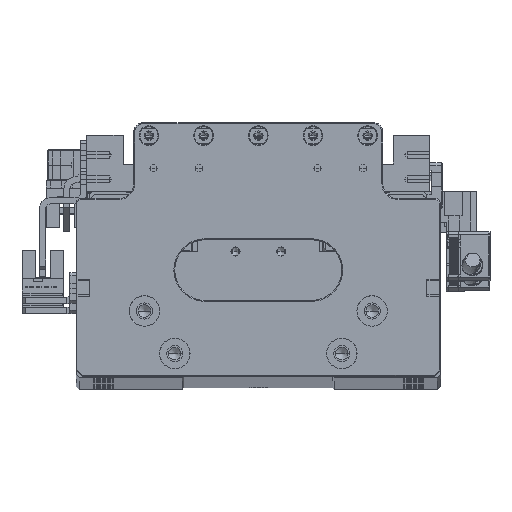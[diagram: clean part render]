
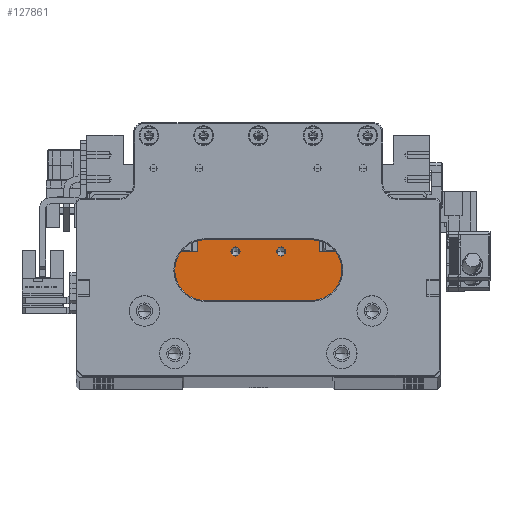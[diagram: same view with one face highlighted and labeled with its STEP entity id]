
A CAD part, top view. The second image highlights one B-rep face of the part: STEP entity #127861.
In plain terms, the highlighted planar face has unit normal (0, 0, 1).
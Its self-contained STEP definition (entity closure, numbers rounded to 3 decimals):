
#3406 = CARTESIAN_POINT ( 'NONE',  ( 29.9, 18.2, 83.854 ) ) ;
#3426 = FACE_BOUND ( 'NONE', #112526, .T. ) ;
#3433 = VECTOR ( 'NONE', #106954, 1000. ) ;
#3450 = AXIS2_PLACEMENT_3D ( 'NONE', #23596, #34449, #106820 ) ;
#3827 = ORIENTED_EDGE ( 'NONE', *, *, #56563, .F. ) ;
#4630 = DIRECTION ( 'NONE',  ( 0., 0., 1. ) ) ;
#6079 = VERTEX_POINT ( 'NONE', #40209 ) ;
#7042 = CARTESIAN_POINT ( 'NONE',  ( -7.5, 25.8, 83.854 ) ) ;
#7961 = AXIS2_PLACEMENT_3D ( 'NONE', #66505, #4630, #76891 ) ;
#9454 = EDGE_CURVE ( 'NONE', #82690, #84410, #69740, .T. ) ;
#9627 = CIRCLE ( 'NONE', #46484, 1.525 ) ;
#11669 = EDGE_CURVE ( 'NONE', #31126, #114815, #126567, .T. ) ;
#13521 = CARTESIAN_POINT ( 'NONE',  ( 29.9, 25.7, 83.854 ) ) ;
#13972 = LINE ( 'NONE', #22997, #38293 ) ;
#14658 = ORIENTED_EDGE ( 'NONE', *, *, #35816, .F. ) ;
#14771 = VECTOR ( 'NONE', #28015, 1000. ) ;
#15309 = CARTESIAN_POINT ( 'NONE',  ( 7.5, 25.8, 83.854 ) ) ;
#16736 = EDGE_CURVE ( 'NONE', #49024, #106659, #119303, .T. ) ;
#17464 = DIRECTION ( 'NONE',  ( 1., 0., 0. ) ) ;
#17992 = EDGE_CURVE ( 'NONE', #43784, #49024, #60788, .T. ) ;
#22997 = CARTESIAN_POINT ( 'NONE',  ( 20., 18.2, 83.854 ) ) ;
#23596 = CARTESIAN_POINT ( 'NONE',  ( -7.5, 18.2, 83.854 ) ) ;
#24638 = ORIENTED_EDGE ( 'NONE', *, *, #55368, .F. ) ;
#25714 = DIRECTION ( 'NONE',  ( 1., 0., 0. ) ) ;
#28015 = DIRECTION ( 'NONE',  ( 0., 1., 0. ) ) ;
#31126 = VERTEX_POINT ( 'NONE', #119779 ) ;
#33338 = AXIS2_PLACEMENT_3D ( 'NONE', #108734, #46834, #119119 ) ;
#34449 = DIRECTION ( 'NONE',  ( 0., 0., -1. ) ) ;
#34590 = CARTESIAN_POINT ( 'NONE',  ( -20., 18.2, 83.854 ) ) ;
#34675 = LINE ( 'NONE', #79738, #113964 ) ;
#35153 = ORIENTED_EDGE ( 'NONE', *, *, #74474, .T. ) ;
#35816 = EDGE_CURVE ( 'NONE', #114815, #43784, #13972, .T. ) ;
#38293 = VECTOR ( 'NONE', #126048, 1000. ) ;
#38687 = CARTESIAN_POINT ( 'NONE',  ( 9.025, 25.8, 83.854 ) ) ;
#39092 = DIRECTION ( 'NONE',  ( 1., 0., 0. ) ) ;
#40209 = CARTESIAN_POINT ( 'NONE',  ( -9.025, 25.8, 83.854 ) ) ;
#41748 = ORIENTED_EDGE ( 'NONE', *, *, #17992, .F. ) ;
#43195 = ORIENTED_EDGE ( 'NONE', *, *, #75675, .F. ) ;
#43308 = CARTESIAN_POINT ( 'NONE',  ( 20., 29.7, 83.854 ) ) ;
#43784 = VERTEX_POINT ( 'NONE', #53129 ) ;
#44573 = DIRECTION ( 'NONE',  ( 0., -1., 0. ) ) ;
#46233 = ORIENTED_EDGE ( 'NONE', *, *, #96845, .F. ) ;
#46484 = AXIS2_PLACEMENT_3D ( 'NONE', #15309, #87592, #25714 ) ;
#46834 = DIRECTION ( 'NONE',  ( 0., 0., 1. ) ) ;
#48219 = CARTESIAN_POINT ( 'NONE',  ( -20., 25.7, 83.854 ) ) ;
#49024 = VERTEX_POINT ( 'NONE', #13521 ) ;
#49379 = EDGE_CURVE ( 'NONE', #6079, #69639, #122192, .T. ) ;
#52276 = VERTEX_POINT ( 'NONE', #38687 ) ;
#53129 = CARTESIAN_POINT ( 'NONE',  ( 20., 25.7, 83.854 ) ) ;
#54538 = DIRECTION ( 'NONE',  ( 1., 0., 0. ) ) ;
#55171 = FACE_BOUND ( 'NONE', #109655, .T. ) ;
#55368 = EDGE_CURVE ( 'NONE', #69639, #6079, #82618, .T. ) ;
#55463 = LINE ( 'NONE', #80106, #103960 ) ;
#56563 = EDGE_CURVE ( 'NONE', #123616, #52276, #9627, .T. ) ;
#57548 = VECTOR ( 'NONE', #88023, 1000. ) ;
#58890 = ORIENTED_EDGE ( 'NONE', *, *, #11669, .F. ) ;
#60788 = LINE ( 'NONE', #129199, #57548 ) ;
#66505 = CARTESIAN_POINT ( 'NONE',  ( 7.5, 25.8, 83.854 ) ) ;
#67487 = VECTOR ( 'NONE', #44573, 1000. ) ;
#68367 = VECTOR ( 'NONE', #54538, 1000. ) ;
#69422 = AXIS2_PLACEMENT_3D ( 'NONE', #7042, #79310, #17464 ) ;
#69639 = VERTEX_POINT ( 'NONE', #129416 ) ;
#69740 = LINE ( 'NONE', #120703, #14771 ) ;
#74474 = EDGE_CURVE ( 'NONE', #82690, #106659, #34675, .T. ) ;
#75675 = EDGE_CURVE ( 'NONE', #84410, #127472, #55463, .T. ) ;
#76891 = DIRECTION ( 'NONE',  ( 1., 0., 0. ) ) ;
#79310 = DIRECTION ( 'NONE',  ( 0., 0., 1. ) ) ;
#79738 = CARTESIAN_POINT ( 'NONE',  ( -7.5, 6.5, 83.854 ) ) ;
#80106 = CARTESIAN_POINT ( 'NONE',  ( -7.5, 25.7, 83.854 ) ) ;
#82582 = FACE_OUTER_BOUND ( 'NONE', #122255, .T. ) ;
#82618 = CIRCLE ( 'NONE', #33338, 1.525 ) ;
#82690 = VERTEX_POINT ( 'NONE', #118086 ) ;
#83588 = CARTESIAN_POINT ( 'NONE',  ( 29.9, 6.5, 83.854 ) ) ;
#83593 = ORIENTED_EDGE ( 'NONE', *, *, #16736, .F. ) ;
#84410 = VERTEX_POINT ( 'NONE', #117043 ) ;
#87592 = DIRECTION ( 'NONE',  ( 0., 0., 1. ) ) ;
#88023 = DIRECTION ( 'NONE',  ( 1., 0., 0. ) ) ;
#90155 = DIRECTION ( 'NONE',  ( 1., 0., 0. ) ) ;
#90487 = CARTESIAN_POINT ( 'NONE',  ( 5.975, 25.8, 83.854 ) ) ;
#96341 = PLANE ( 'NONE',  #3450 ) ;
#96845 = EDGE_CURVE ( 'NONE', #52276, #123616, #124635, .T. ) ;
#103960 = VECTOR ( 'NONE', #39092, 1000. ) ;
#106101 = CARTESIAN_POINT ( 'NONE',  ( -7.5, 29.7, 83.854 ) ) ;
#106659 = VERTEX_POINT ( 'NONE', #83588 ) ;
#106820 = DIRECTION ( 'NONE',  ( -1., 0., 0. ) ) ;
#106954 = DIRECTION ( 'NONE',  ( 0., 1., 0. ) ) ;
#106960 = LINE ( 'NONE', #34590, #3433 ) ;
#107537 = ORIENTED_EDGE ( 'NONE', *, *, #134118, .F. ) ;
#108734 = CARTESIAN_POINT ( 'NONE',  ( -7.5, 25.8, 83.854 ) ) ;
#109655 = EDGE_LOOP ( 'NONE', ( #46233, #3827 ) ) ;
#112526 = EDGE_LOOP ( 'NONE', ( #24638, #122846 ) ) ;
#113964 = VECTOR ( 'NONE', #90155, 1000. ) ;
#114815 = VERTEX_POINT ( 'NONE', #43308 ) ;
#117043 = CARTESIAN_POINT ( 'NONE',  ( -29.9, 25.7, 83.854 ) ) ;
#118086 = CARTESIAN_POINT ( 'NONE',  ( -29.9, 6.5, 83.854 ) ) ;
#119119 = DIRECTION ( 'NONE',  ( 1., 0., 0. ) ) ;
#119303 = LINE ( 'NONE', #3406, #67487 ) ;
#119779 = CARTESIAN_POINT ( 'NONE',  ( -20., 29.7, 83.854 ) ) ;
#120703 = CARTESIAN_POINT ( 'NONE',  ( -29.9, 18.2, 83.854 ) ) ;
#122192 = CIRCLE ( 'NONE', #69422, 1.525 ) ;
#122255 = EDGE_LOOP ( 'NONE', ( #43195, #128050, #35153, #83593, #41748, #14658, #58890, #107537 ) ) ;
#122846 = ORIENTED_EDGE ( 'NONE', *, *, #49379, .F. ) ;
#123616 = VERTEX_POINT ( 'NONE', #90487 ) ;
#124635 = CIRCLE ( 'NONE', #7961, 1.525 ) ;
#126048 = DIRECTION ( 'NONE',  ( 0., -1., 0. ) ) ;
#126567 = LINE ( 'NONE', #106101, #68367 ) ;
#127472 = VERTEX_POINT ( 'NONE', #48219 ) ;
#127861 = ADVANCED_FACE ( 'NONE', ( #82582, #55171, #3426 ), #96341, .F. ) ;
#128050 = ORIENTED_EDGE ( 'NONE', *, *, #9454, .F. ) ;
#129199 = CARTESIAN_POINT ( 'NONE',  ( -7.5, 25.7, 83.854 ) ) ;
#129416 = CARTESIAN_POINT ( 'NONE',  ( -5.975, 25.8, 83.854 ) ) ;
#134118 = EDGE_CURVE ( 'NONE', #127472, #31126, #106960, .T. ) ;
